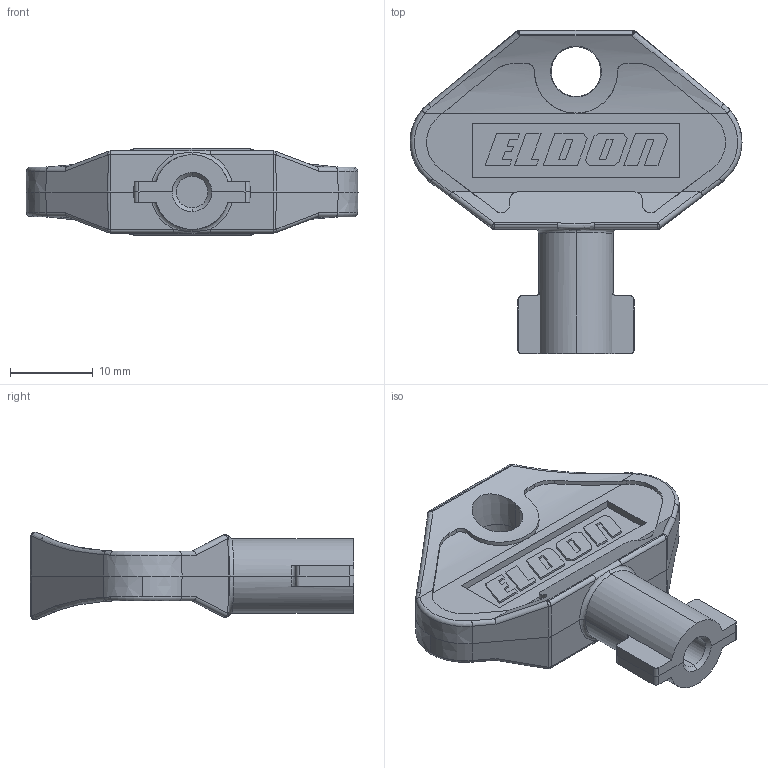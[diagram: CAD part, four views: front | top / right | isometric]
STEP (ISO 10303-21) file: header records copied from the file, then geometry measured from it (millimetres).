
FILE_DESCRIPTION (( 'STEP AP203' ), '1' );
FILE_NAME ('LSK502_V2.step', '2015-02-17T09:33:23', ( '' ), ( '' ), 'SwSTEP 2.0', 'SolidWorks 2014', '' );
FILE_SCHEMA (( 'CONFIG_CONTROL_DESIGN' ));
Length unit declared in the file: millimetre
Products named in the file (1): LSK502_V2
Bounding box: 40 x 39 x 10.6 mm (x, y, z)
Volume: 4966.3 mm3; surface area: 3320.9 mm2
Topology: 1 solids, 1 shells, 309 faces, 847 edges, 556 vertices
Faces by surface type: plane 185, cylinder 76, bspline 30, cone 12, torus 6
Entity records: 10526 total; most frequent: CARTESIAN_POINT 3076, ORIENTED_EDGE 1694, DIRECTION 1329, EDGE_CURVE 847, LINE 593, VECTOR 593, VERTEX_POINT 556, AXIS2_PLACEMENT_3D 368
